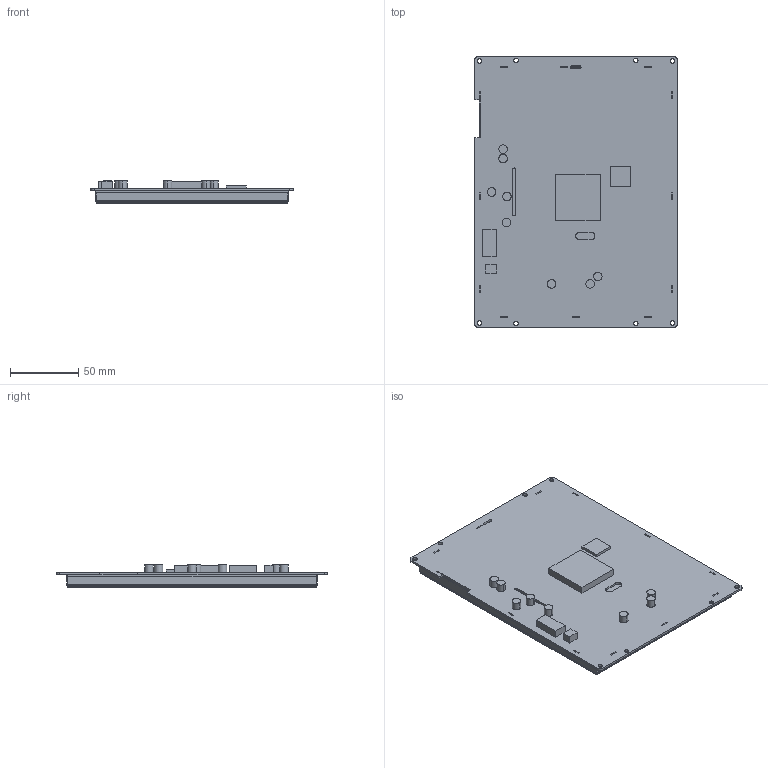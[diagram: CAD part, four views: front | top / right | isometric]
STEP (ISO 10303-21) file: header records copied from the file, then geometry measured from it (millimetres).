
FILE_DESCRIPTION((''),'2;1');
FILE_NAME('DMG80600K080_03WTC','2022-02-22T',('Administrator'),(''),'PRO/ENGINEER BY PARAMETRIC TECHNOLOGY CORPORATION, 2011310','PRO/ENGINEER BY PARAMETRIC TECHNOLOGY CORPORATION, 2011310','');
FILE_SCHEMA(('CONFIG_CONTROL_DESIGN','SHAPE_APPEARANCE_LAYERS_GROUPS'));
Length unit declared in the file: millimetre
Products named in the file (1): DMG80600K080_03WTC
Bounding box: 148.84 x 199.39 x 16.5 mm (x, y, z)
Volume: 239672.3 mm3; surface area: 170361.4 mm2
Topology: 1 solids, 2 shells, 216 faces, 634 edges, 404 vertices
Faces by surface type: plane 174, cylinder 42
Entity records: 8665 total; most frequent: ORIENTED_EDGE 1268, CARTESIAN_POINT 1254, DIRECTION 1154, EDGE_CURVE 634, VECTOR 546, LINE 546, VERTEX_POINT 404, AXIS2_PLACEMENT_3D 304
